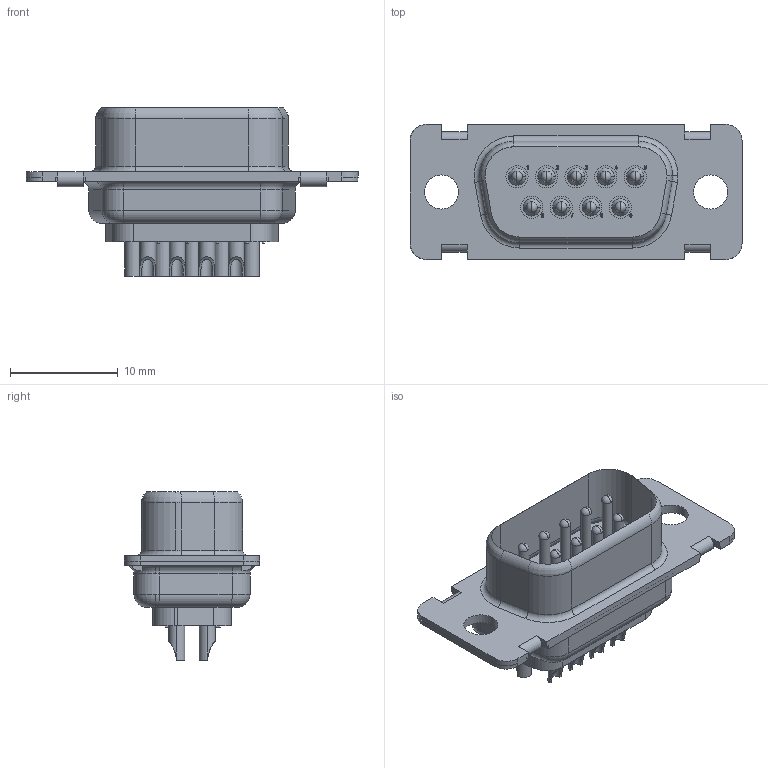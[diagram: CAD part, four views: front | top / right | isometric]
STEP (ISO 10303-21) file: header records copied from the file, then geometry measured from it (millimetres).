
FILE_DESCRIPTION (( 'STEP AP214' ), '1' );
FILE_NAME ('HDC9M2000S-AA.STEP', '2021-03-19T05:45:35', ( '' ), ( '' ), 'SwSTEP 2.0', 'SolidWorks 2019', '' );
FILE_SCHEMA (( 'AUTOMOTIVE_DESIGN' ));
Length unit declared in the file: millimetre
Products named in the file (1): HDC9M2000S-AA
Bounding box: 30.82 x 12.55 x 15.62 mm (x, y, z)
Volume: 1312.2 mm3; surface area: 2652 mm2
Topology: 1 solids, 1 shells, 700 faces, 1828 edges, 1148 vertices
Faces by surface type: plane 232, cylinder 204, bspline 150, cone 54, torus 42, sphere 18
Entity records: 30019 total; most frequent: CARTESIAN_POINT 13610, ORIENTED_EDGE 3584, DIRECTION 3097, EDGE_CURVE 1792, VERTEX_POINT 1148, AXIS2_PLACEMENT_3D 1083, VECTOR 931, LINE 931
